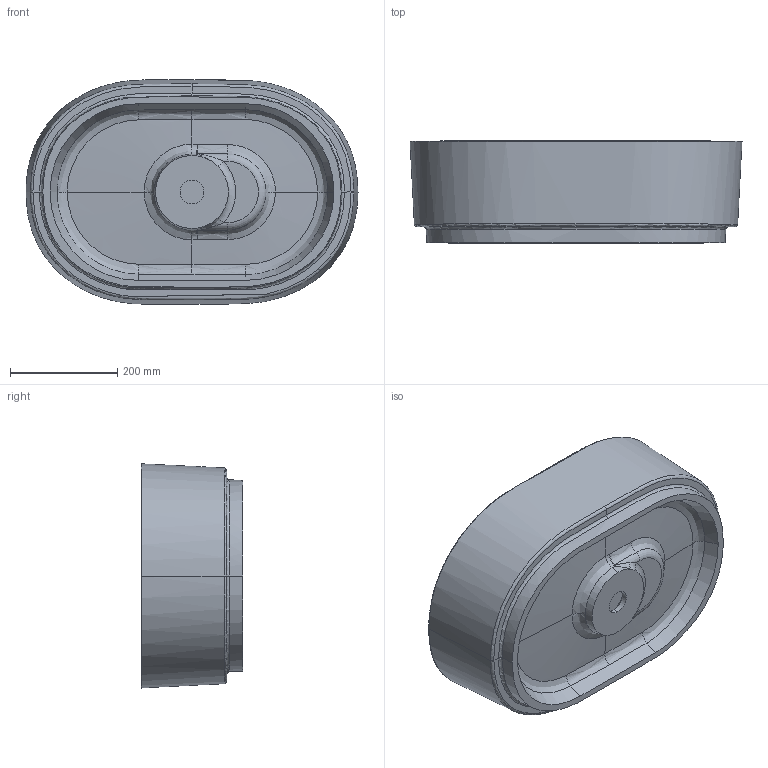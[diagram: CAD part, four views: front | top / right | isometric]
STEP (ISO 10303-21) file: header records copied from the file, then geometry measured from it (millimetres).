
FILE_DESCRIPTION (( 'STEP AP203' ), '1' );
FILE_NAME ('F4818061.STEP', '2017-10-03T11:41:30', ( 'admin' ), ( 'Hewlett-Packard Company' ), 'SwSTEP 2.0', 'SolidWorks 2014', '' );
FILE_SCHEMA (( 'CONFIG_CONTROL_DESIGN' ));
Length unit declared in the file: millimetre
Products named in the file (1): F4818061
Bounding box: 619.89 x 190 x 419.7 mm (x, y, z)
Volume: 8704832.8 mm3; surface area: 1001090.2 mm2
Topology: 2 solids, 2 shells, 205 faces, 473 edges, 273 vertices
Faces by surface type: bspline 125, cylinder 39, plane 29, cone 8, sphere 2, torus 2
Entity records: 25643 total; most frequent: CARTESIAN_POINT 21865, ORIENTED_EDGE 938, DIRECTION 533, EDGE_CURVE 469, VERTEX_POINT 273, AXIS2_PLACEMENT_3D 220, EDGE_LOOP 212, ADVANCED_FACE 205
